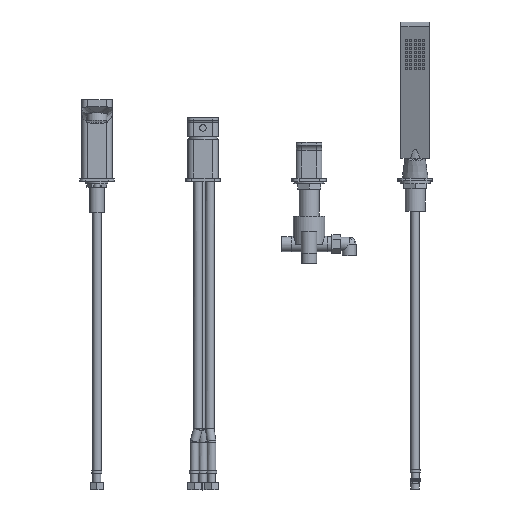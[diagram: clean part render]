
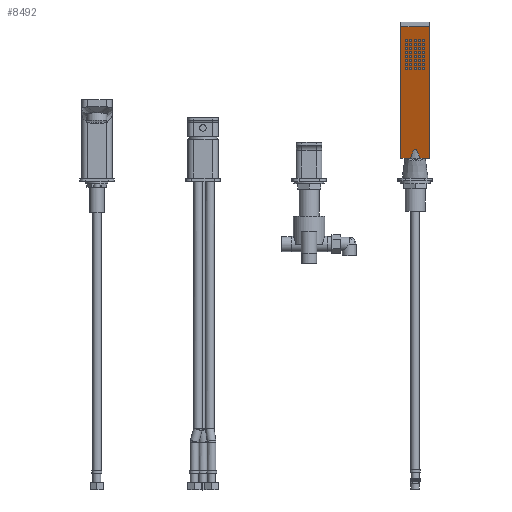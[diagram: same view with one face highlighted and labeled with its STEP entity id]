
A CAD part, top view. The second image highlights one B-rep face of the part: STEP entity #8492.
In plain terms, the highlighted planar face has unit normal (0, -0.342, 0.94) as drawn and (0, -0.342, -0.94) by its records, which use the part's own axes.
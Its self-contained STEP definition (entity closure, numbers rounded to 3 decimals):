
#220=(
BOUNDED_CURVE()
B_SPLINE_CURVE(2,(#12760,#12761,#12762),.UNSPECIFIED.,.F.,.F.)
B_SPLINE_CURVE_WITH_KNOTS((3,3),(0.,2.919),.UNSPECIFIED.)
CURVE()
GEOMETRIC_REPRESENTATION_ITEM()
RATIONAL_B_SPLINE_CURVE((1.,1.2,1.))
REPRESENTATION_ITEM('')
);
#282=PLANE('',#9220);
#712=FACE_OUTER_BOUND('',#1253,.T.);
#1253=EDGE_LOOP('',(#6010,#6011,#6012,#6013,#6014,#6015));
#1840=LINE('',#12784,#2725);
#1841=LINE('',#12786,#2726);
#1842=LINE('',#12788,#2727);
#1843=LINE('',#12790,#2728);
#1844=LINE('',#12791,#2729);
#2725=VECTOR('',#10125,10.);
#2726=VECTOR('',#10126,10.);
#2727=VECTOR('',#10127,10.);
#2728=VECTOR('',#10128,10.);
#2729=VECTOR('',#10129,10.);
#3909=VERTEX_POINT('',#12758);
#3910=VERTEX_POINT('',#12759);
#3917=VERTEX_POINT('',#12783);
#3918=VERTEX_POINT('',#12785);
#3919=VERTEX_POINT('',#12787);
#3920=VERTEX_POINT('',#12789);
#4751=EDGE_CURVE('',#3909,#3910,#220,.T.);
#4760=EDGE_CURVE('',#3910,#3917,#1840,.T.);
#4761=EDGE_CURVE('',#3917,#3918,#1841,.T.);
#4762=EDGE_CURVE('',#3919,#3918,#1842,.T.);
#4763=EDGE_CURVE('',#3920,#3919,#1843,.T.);
#4764=EDGE_CURVE('',#3920,#3909,#1844,.T.);
#6010=ORIENTED_EDGE('',*,*,#4751,.T.);
#6011=ORIENTED_EDGE('',*,*,#4760,.T.);
#6012=ORIENTED_EDGE('',*,*,#4761,.T.);
#6013=ORIENTED_EDGE('',*,*,#4762,.F.);
#6014=ORIENTED_EDGE('',*,*,#4763,.F.);
#6015=ORIENTED_EDGE('',*,*,#4764,.T.);
#8492=ADVANCED_FACE('',(#712),#282,.T.);
#9220=AXIS2_PLACEMENT_3D('',#12782,#10123,#10124);
#10123=DIRECTION('center_axis',(0.,-0.342,
-0.94));
#10124=DIRECTION('ref_axis',(-1.,0.,0.));
#10125=DIRECTION('',(-1.,0.,0.));
#10126=DIRECTION('',(0.,0.94,-0.342));
#10127=DIRECTION('',(-1.,0.,0.));
#10128=DIRECTION('',(0.,0.94,-0.342));
#10129=DIRECTION('',(-1.,0.,0.));
#12758=CARTESIAN_POINT('',(6.633,-3.42,-9.397));
#12759=CARTESIAN_POINT('',(-6.633,-3.42,-9.397));
#12760=CARTESIAN_POINT('Ctrl Pts',(6.633,-3.42,-9.397));
#12761=CARTESIAN_POINT('Ctrl Pts',(0.,18.976,
-17.548));
#12762=CARTESIAN_POINT('Ctrl Pts',(-6.633,-3.42,-9.397));
#12782=CARTESIAN_POINT('Origin',(20.,-3.42,-9.397));
#12783=CARTESIAN_POINT('',(-20.,-3.42,-9.397));
#12784=CARTESIAN_POINT('',(20.,-3.42,-9.397));
#12785=CARTESIAN_POINT('',(-20.,179.82,-76.091));
#12786=CARTESIAN_POINT('',(-20.,-3.42,-9.397));
#12787=CARTESIAN_POINT('',(20.,179.82,-76.091));
#12788=CARTESIAN_POINT('',(20.,179.82,-76.091));
#12789=CARTESIAN_POINT('',(20.,-3.42,-9.397));
#12790=CARTESIAN_POINT('',(20.,-3.42,-9.397));
#12791=CARTESIAN_POINT('',(20.,-3.42,-9.397));
